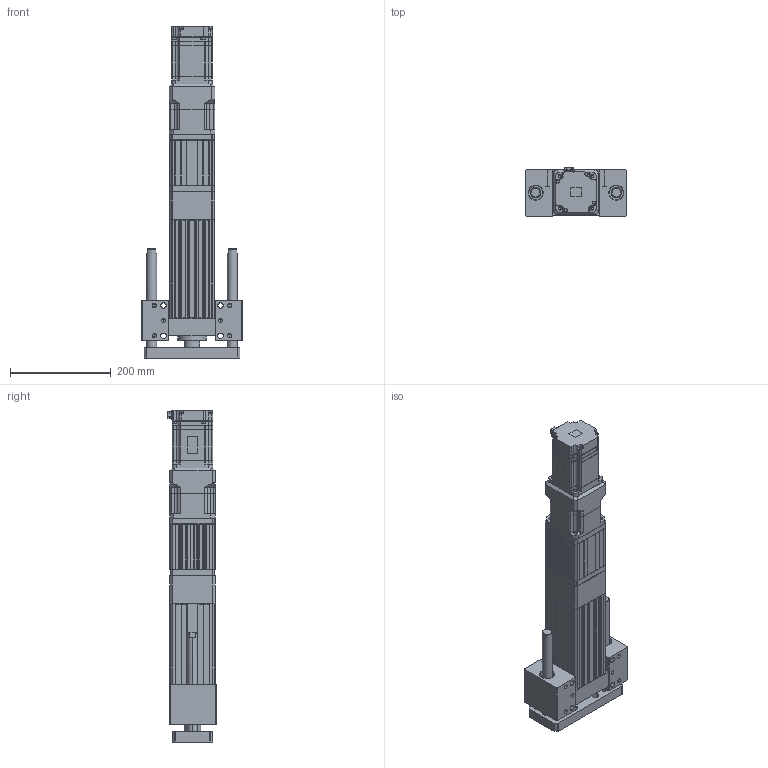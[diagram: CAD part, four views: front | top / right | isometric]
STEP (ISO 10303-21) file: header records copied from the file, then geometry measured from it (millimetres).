
FILE_DESCRIPTION (( 'STEP AP203' ), '1' );
FILE_NAME ('ANS090H-HS050-05(10)(25)-W75G05.STEP', '2019-03-18T03:14:57', ( 'user' ), ( '' ), 'SwSTEP 2.0', 'SolidWorks 2013', '' );
FILE_SCHEMA (( 'CONFIG_CONTROL_DESIGN' ));
Length unit declared in the file: millimetre
Products named in the file (5): AB090-005-S1-P2[YASKAWA SGMJV08A]; SGMJV_08A_A21; ANS090H-HS050-05(10)(25)-W75G05; ANS090H HS050 VER2; ANS090 ROD ST050-H
Assembly tree (4 placements, depth 2):
  ANS090H-HS050-05(10)(25)-W75G05
    ANS090H HS050 VER2
    ANS090 ROD ST050-H
    AB090-005-S1-P2[YASKAWA SGMJV08A]
    SGMJV_08A_A21
Bounding box: 200 x 95.8 x 658.1 mm (x, y, z)
Volume: 3626342.2 mm3; surface area: 595755.2 mm2
Topology: 3 solids, 10 shells, 1749 faces, 4692 edges, 3042 vertices
Faces by surface type: plane 1030, cylinder 559, cone 148, bspline 12
Entity records: 55250 total; most frequent: CARTESIAN_POINT 10492, ORIENTED_EDGE 9248, DIRECTION 9165, EDGE_CURVE 4668, VECTOR 3271, LINE 3271, VERTEX_POINT 3042, AXIS2_PLACEMENT_3D 2947
